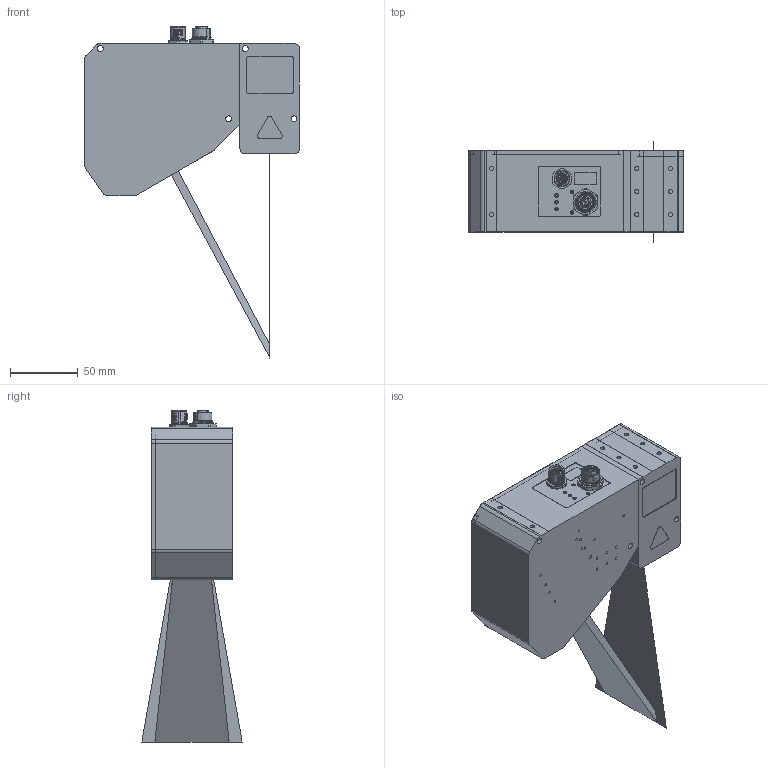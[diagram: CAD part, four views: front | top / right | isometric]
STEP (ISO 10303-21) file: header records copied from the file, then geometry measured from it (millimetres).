
FILE_DESCRIPTION(/* description */ ('C6-S7-4090-XCS-28-53-146-SX-1G-405-3R_Public'),/* implementation_level */ '2;1');
FILE_NAME(/* name */ 'C6-S7-4090-XCS-28-53-146-SX-1G-405-3R_Public.iam.stp',/* time_stamp */ '2024-05-06T11:02:29+02:00',/* author */ ('SH'),/* organization */ ('Automation Technology GmbH'),/* preprocessor_version */ 'ST-DEVELOPER v20',/* originating_system */ 'Autodesk Inventor 2024',/* authorisation */ '');
FILE_SCHEMA (('AUTOMOTIVE_DESIGN { 1 0 10303 214 3 1 1 }'));
Products named in the file (22): C6-S7-4090-XCS-28-53-146-SX-1G-405-3R_Public; 602345330; 602344821; SACC-DSI-FS-8CON-L180_SCO SH_1553860-01; SACC-DSI-FS-8CON-L180_SCO SH_1553860_Stecker; SACC-DSI-FS-8CON-L180_SCO SH_1553860_Mutter; SACC-DSI-FS-8CON-L180_SCO SH_1553860_Kunststoffeinsatz; SACC-DSI-MS-17CON-M12 SCO SH_1437119-01; SACC-DSI-MS-17CON-M12 SCO SH_1437119_Stecker; SACC-DSI-MS-17CON-M12 SCO SH_1437119_Mutter; SACC-DSI-MS-17CON-M12 SCO SH_1437119_Pins; SACC-DSI-MS-17CON-M12 SCO SH_1437119_Kunststoffeinsatz; 202205000-213; 202205000-211; 202190016-009; 602345329; C6-S7-4090-XCS-28-53-146-SX-1G-405-3R_Strahlengang; Screw GB/T 2672 M2,5 x 6; EO: 48-924; Glasscheibe2Zollx1; Screw GB/T 2672 M2,5 x 4; 1292.6001
Assembly tree (43 placements, depth 3):
  C6-S7-4090-XCS-28-53-146-SX-1G-405-3R_Public
    602345330
    602344821
    SACC-DSI-FS-8CON-L180_SCO SH_1553860-01
      SACC-DSI-FS-8CON-L180_SCO SH_1553860_Stecker
      SACC-DSI-FS-8CON-L180_SCO SH_1553860_Mutter
      SACC-DSI-FS-8CON-L180_SCO SH_1553860_Kunststoffeinsatz
    SACC-DSI-MS-17CON-M12 SCO SH_1437119-01
      SACC-DSI-MS-17CON-M12 SCO SH_1437119_Stecker
      SACC-DSI-MS-17CON-M12 SCO SH_1437119_Mutter
      SACC-DSI-MS-17CON-M12 SCO SH_1437119_Pins
      SACC-DSI-MS-17CON-M12 SCO SH_1437119_Kunststoffeinsatz
    202205000-213
    202205000-211
    202190016-009
    602345329
    C6-S7-4090-XCS-28-53-146-SX-1G-405-3R_Strahlengang
    Screw GB/T 2672 M2,5 x 6  x12
    EO: 48-924
    Glasscheibe2Zollx1
    Screw GB/T 2672 M2,5 x 4  x8
    1292.6001  x5
Bounding box: 159 x 74.25 x 245.7 mm (x, y, z)
Volume: 280140.9 mm3; surface area: 175691.8 mm2
Topology: 58 solids, 59 shells, 2954 faces, 7207 edges, 4503 vertices
Faces by surface type: cylinder 1270, plane 1074, bspline 323, cone 138, torus 95, sphere 54
Full cylindrical faces by diameter (mm): 0.217 x1, 0.6 x25, 0.63 x34, 0.9 x8, 1 x10, 1.1 x17, 1.2 x17, 1.5 x5, 1.567 x3, 1.6 x5, 2 x20, 2.013 x50, 2.208 x20, 2.4 x20, 2.459 x8, 2.5 x20, 2.6 x17, 2.8 x8, 3 x2, 3.2 x2, 3.242 x6, 4.4 x4, 5 x20, 5.2 x12, 5.5 x8, 7.7 x1, 8.25 x2, 8.3 x1, 8.7 x1, 10.5 x1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
Entity records: 102896 total; most frequent: CARTESIAN_POINT 50059, ORIENTED_EDGE 10762, DIRECTION 10136, EDGE_CURVE 5383, AXIS2_PLACEMENT_3D 3673, VERTEX_POINT 3564, LINE 2790, VECTOR 2790
